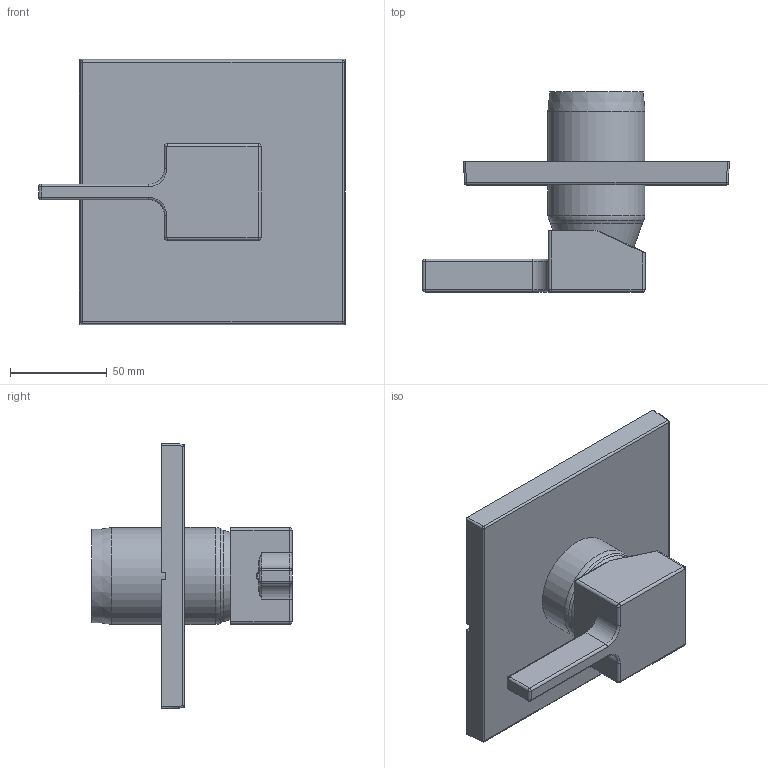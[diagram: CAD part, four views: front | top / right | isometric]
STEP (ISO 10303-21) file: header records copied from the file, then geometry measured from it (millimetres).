
FILE_DESCRIPTION(/* description */ (''),/* implementation_level */ '2;1');
FILE_NAME(/* name */ 'X:\Utilisateurs\Francois\MZ71 3D.stp',/* time_stamp */ '2017-01-17T15:46:41-05:00',/* author */ ('francoisj'),/* organization */ (''),/* preprocessor_version */ 'ST-DEVELOPER v15.6',/* originating_system */ 'Autodesk Inventor 2015',/* authorisation */ '');
FILE_SCHEMA (('CONFIG_CONTROL_DESIGN'));
Length unit declared in the file: millimetre
Products named in the file (1): TMZ71_Shrinkwrap_1
Bounding box: 158.63 x 103.42 x 137.5 mm (x, y, z)
Volume: 251566.7 mm3; surface area: 78220.7 mm2
Topology: 2 solids, 2 shells, 268 faces, 679 edges, 393 vertices
Faces by surface type: plane 123, cylinder 82, bspline 20, torus 20, sphere 20, cone 3
Full cylindrical faces by diameter (mm): 5 x1, 50.2 x2
Entity records: 8436 total; most frequent: CARTESIAN_POINT 1834, DIRECTION 1346, ORIENTED_EDGE 1288, EDGE_CURVE 644, AXIS2_PLACEMENT_3D 461, LINE 424, VECTOR 424, VERTEX_POINT 390
